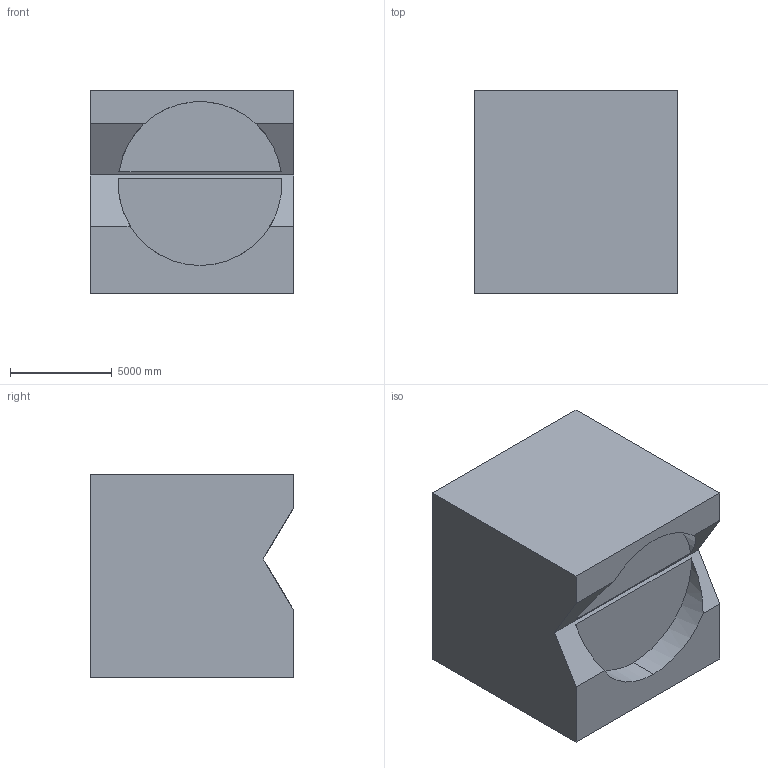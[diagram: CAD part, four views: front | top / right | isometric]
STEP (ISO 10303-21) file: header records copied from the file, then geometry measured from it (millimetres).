
FILE_DESCRIPTION (( 'STEP AP203' ), '1' );
FILE_NAME ('40.STEP', '2022-07-28T13:28:13', ( 'user' ), ( '' ), 'SwSTEP 2.0', 'SolidWorks 2021', '' );
FILE_SCHEMA (( 'CONFIG_CONTROL_DESIGN' ));
Length unit declared in the file: centimetre
Products named in the file (1): 40
Bounding box: 10000 x 10000 x 10000 mm (x, y, z)
Volume: 919787869835.6 mm3; surface area: 622679310.3 mm2
Topology: 1 solids, 1 shells, 14 faces, 36 edges, 24 vertices
Faces by surface type: plane 11, cylinder 3
Entity records: 503 total; most frequent: CARTESIAN_POINT 87, ORIENTED_EDGE 72, DIRECTION 68, EDGE_CURVE 36, LINE 26, VECTOR 26, VERTEX_POINT 24, AXIS2_PLACEMENT_3D 21
